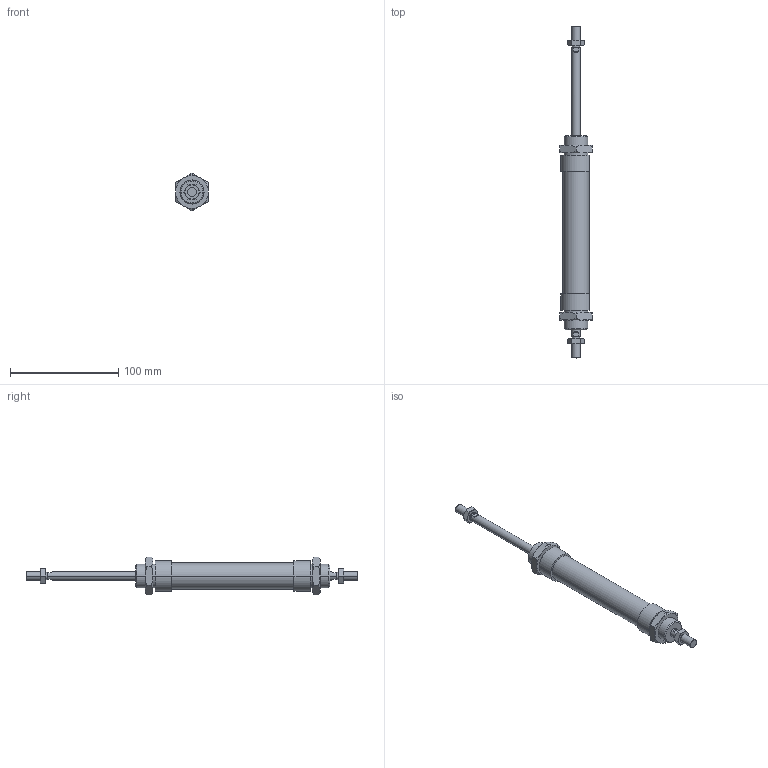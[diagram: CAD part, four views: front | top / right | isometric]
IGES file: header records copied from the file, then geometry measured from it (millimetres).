
Global section: file name: No Iges File Name specified; native system: AutoDesk Inventor R6.0; preprocessor: AutoDesk Inventor Iges Exporter R6.0; author: No Author specified; organization: No Organization specified; date: 20030403.072307; units: millimetre
Bounding box: 30 x 306 x 34.64 mm (x, y, z)
Volume: 95118.6 mm3; surface area: 32493.9 mm2
Topology: 6 solids, 6 shells, 186 faces, 414 edges, 244 vertices
Faces by surface type: cone 68, plane 60, bspline 32, cylinder 20, revolution 6
